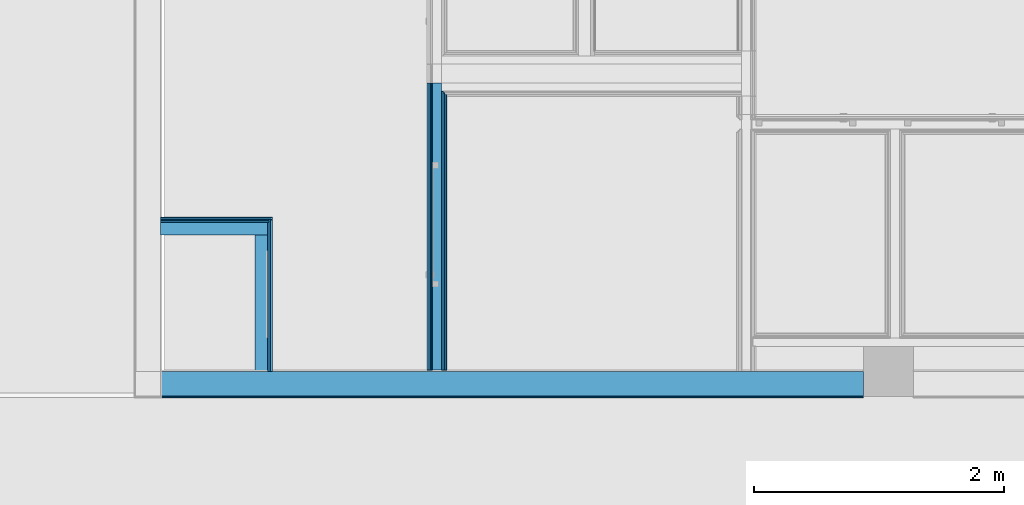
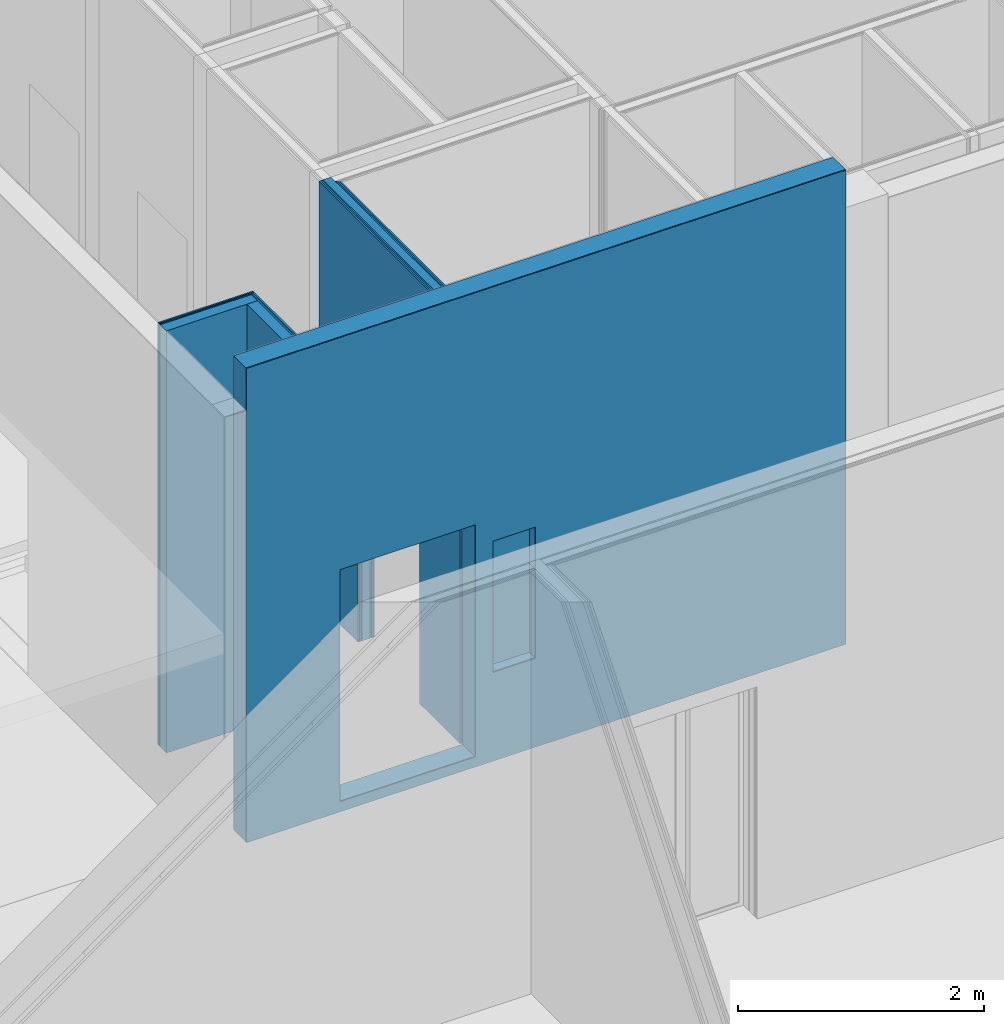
# One storey, part 197 of 260: 17 building element parts, 4 openings, 4 elements without a shape of their own.
"""IFC2X3 building model written with IfcOpenShell, lengths in millimetres."""

from ifc_helpers import new_model, entity, si_unit, converted_unit, derived_unit, money_unit, direction, frame, origin_with_axes, place, context, subcontext, project, spatial, faceted_brep, material, type_object, element, aggregate, save


model = new_model("IFC2X3")

# Units and contexts
model_context = context("Model", 3, precision=0.01, world=origin_with_axes(), true_north=direction((0.0, 1.0)))
body_context = subcontext(model_context, "Body", "Model", "MODEL_VIEW")
ifc_project = project(units=[si_unit("LENGTHUNIT", "METRE", prefix="MILLI"), si_unit("AREAUNIT", "SQUARE_METRE"), si_unit("VOLUMEUNIT", "CUBIC_METRE"), converted_unit("PLANEANGLEUNIT", "DEGREE", entity("IfcPlaneAngleMeasure", 0.0174532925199), si_unit("PLANEANGLEUNIT", "RADIAN"), dimensions=[0, 0, 0, 0, 0, 0, 0]), money_unit("EUR"), converted_unit("TIMEUNIT", "Year", entity("IfcTimeMeasure", 31556926.0), si_unit("TIMEUNIT", "SECOND"), dimensions=[0, 0, 1, 0, 0, 0, 0]), si_unit("MASSUNIT", "GRAM", prefix="KILO"), si_unit("THERMODYNAMICTEMPERATUREUNIT", "DEGREE_CELSIUS"), si_unit("LUMINOUSINTENSITYUNIT", "LUMEN"), si_unit("ENERGYUNIT", "JOULE", prefix="MEGA"), derived_unit("THERMALCONDUCTANCEUNIT", [(si_unit("POWERUNIT", "WATT"), 1), (si_unit("LENGTHUNIT", "METRE"), -1), (si_unit("THERMODYNAMICTEMPERATUREUNIT", "KELVIN"), -1)]), derived_unit("SPECIFICHEATCAPACITYUNIT", [(si_unit("ENERGYUNIT", "JOULE"), 1), (si_unit("MASSUNIT", "GRAM", prefix="KILO"), -1), (si_unit("THERMODYNAMICTEMPERATUREUNIT", "KELVIN"), -1)]), derived_unit("MASSDENSITYUNIT", [(si_unit("MASSUNIT", "GRAM", prefix="KILO"), 1), (si_unit("VOLUMEUNIT", "CUBIC_METRE"), -1)])], contexts=[model_context])

# Site, building, storey
site_placement = place(None, origin_with_axes())
site = spatial("IfcSite", under=ifc_project, at=site_placement, Name="Kolde pst 67a", CompositionType="ELEMENT")
building_placement = place(site_placement, origin_with_axes())
building = spatial("IfcBuilding", under=site, at=building_placement, Name="Riigigümnaasium", CompositionType="ELEMENT")
storey_placement = place(building_placement, origin_with_axes())
storey = spatial("IfcBuildingStorey", under=building, at=storey_placement, Name="1. korrus", CompositionType="ELEMENT", Elevation=0.0)

# Wall, openings, building element parts
wall_type_1 = type_object("IfcWallType", Name="SS-RB-20/1_+2 krohv 55 dB 220", PredefinedType="NOTDEFINED")
wall_1_placement = place(storey_placement, frame((64129.9442044, 10899.9619405, -100.100001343), z_axis=(0.0, 0.0, 1.0), x_axis=(1.0, 0.0, 0.0)))
wall_1 = element("IfcWall", 1, at=wall_1_placement, inside=storey, type_object=wall_type_1, Name="Sisesein")
opening_1_placement = place(wall_1_placement, frame((1512.33413721, 0.0, 100.100001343), z_axis=(0.0, 0.0, 1.0), x_axis=(1.0, 0.0, 0.0)))
element("IfcOpeningElement", 2, at=opening_1_placement, cuts=wall_1, Name="Ukseava", context=body_context, shape_type="Brep", body=[
    faceted_brep([(-633.609193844, -220.0, 0.0), (-633.609193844, -220.0, 2300.0), (-633.609193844, 440.0, 2300.0), (-633.609193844, 440.0, 0.0), (633.609193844, -220.0, 0.0), (633.609193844, -220.0, 2300.0), (633.609193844, 440.0, 2300.0), (633.609193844, 440.0, 0.0)], [[[0, 1, 2, 3]], [[0, 4, 5, 1]], [[1, 5, 6, 2]], [[3, 2, 6, 7]], [[4, 0, 3, 7]], [[5, 4, 7, 6]]]),
])
opening_2_placement = place(wall_1_placement, frame((-64129.9442044, -10899.9619405, 100.100001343), z_axis=(0.0, 0.0, 1.0), x_axis=(1.0, 0.0, 0.0)))
element("IfcOpeningElement", 3, at=opening_2_placement, cuts=wall_1, Name="Tulekustuti nišš vastavalt SA osale", ObjectType="OPENING", context=body_context, shape_type="Brep", body=[
    faceted_brep([(66439.9488956, 10689.9619405, 780.0), (66439.9488956, 10689.9619405, 2080.0), (66439.9488956, 10789.9619405, 2080.0), (66439.9488956, 10789.9619405, 780.0), (66839.9488956, 10689.9619405, 780.0), (66839.9488956, 10689.9619405, 2080.0), (66839.9488956, 10789.9619405, 2080.0), (66839.9488956, 10789.9619405, 780.0)], [[[0, 1, 2, 3]], [[0, 4, 5, 1]], [[1, 5, 6, 2]], [[3, 2, 6, 7]], [[4, 0, 3, 7]], [[5, 4, 7, 6]]]),
])
ifc_material_1 = material(Name="_KANDETARIND - monteeritav raudbetoon vastavalt EK osale")
building_element_part_1_placement = place(wall_1_placement, origin_with_axes())
building_element_part_1 = element("IfcBuildingElementPart", 4, at=building_element_part_1_placement, material=ifc_material_1, Name="_KANDETARIND - monteeritav raudbetoon vastavalt EK osale", context=body_context, shape_type="Brep", body=[
    faceted_brep([(0.0, -200.0, 0.0), (5620.05512171, -200.0, 0.0), (5620.05512171, -200.0, 4700.10000134), (0.0, -200.0, 4700.10000134), (2310.00469115, -200.0, 880.100001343), (2310.00469115, -200.0, 2180.10000134), (2710.00469115, -200.0, 2180.10000134), (2710.00469115, -200.0, 880.100001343), (2145.94333105, -200.0, 100.100001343), (878.724943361, -200.0, 100.100001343), (878.724943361, -200.0, 2400.10000134), (2145.94333105, -200.0, 2400.10000134), (0.0, 0.0, 0.0), (5620.05512171, 0.0, 0.0), (5620.05512171, 0.0, 4700.10000134), (0.0, 0.0, 4700.10000134), (2310.00469115, -110.0, 880.100001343), (2310.00469115, -110.0, 2180.10000134), (2710.00469115, -110.0, 2180.10000134), (2710.00469115, -110.0, 880.100001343), (2145.94333105, 0.0, 100.100001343), (878.724943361, 0.0, 100.100001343), (878.724943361, 0.0, 2400.10000134), (2145.94333105, 0.0, 2400.10000134)], [[[0, 1, 2, 3], [4, 5, 6, 7], [8, 9, 10, 11]], [[12, 13, 1, 0]], [[14, 2, 1, 13]], [[3, 2, 14, 15]], [[0, 3, 15, 12]], [[5, 4, 16, 17]], [[6, 5, 17, 18]], [[7, 6, 18, 19]], [[4, 7, 19, 16]], [[8, 20, 21, 9]], [[9, 21, 22, 10]], [[10, 22, 23, 11]], [[11, 23, 20, 8]], [[15, 14, 13, 12], [22, 21, 20, 23]], [[19, 18, 17, 16]]]),
])
ifc_material_2 = material(Name="_VIIMISTLUSKIHT - viimistlus vastavalt SA osale")
building_element_part_2_placement = place(wall_1_placement, origin_with_axes())
building_element_part_2 = element("IfcBuildingElementPart", 5, at=building_element_part_2_placement, material=ifc_material_2, Name="_VIIMISTLUSKIHT - viimistlus vastavalt SA osale", context=body_context, shape_type="Brep", body=[
    faceted_brep([(0.0, -210.0, 0.0), (5620.05512171, -210.0, 0.0), (5620.05512171, -210.0, 4700.10000134), (0.0, -210.0, 4700.10000134), (2310.00469115, -210.0, 880.100001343), (2310.00469115, -210.0, 2180.10000134), (2710.00469115, -210.0, 2180.10000134), (2710.00469115, -210.0, 880.100001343), (2145.94333105, -210.0, 100.100001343), (878.724943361, -210.0, 100.100001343), (878.724943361, -210.0, 2400.10000134), (2145.94333105, -210.0, 2400.10000134), (0.0, -200.0, 0.0), (5620.05512171, -200.0, 0.0), (5620.05512171, -200.0, 4700.10000134), (0.0, -200.0, 4700.10000134), (2310.00469115, -200.0, 880.100001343), (2310.00469115, -200.0, 2180.10000134), (2710.00469115, -200.0, 2180.10000134), (2710.00469115, -200.0, 880.100001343), (2145.94333105, -200.0, 100.100001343), (878.724943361, -200.0, 100.100001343), (878.724943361, -200.0, 2400.10000134), (2145.94333105, -200.0, 2400.10000134)], [[[0, 1, 2, 3], [4, 5, 6, 7], [8, 9, 10, 11]], [[12, 13, 1, 0]], [[14, 2, 1, 13]], [[3, 2, 14, 15]], [[0, 3, 15, 12]], [[16, 17, 5, 4]], [[17, 18, 6, 5]], [[18, 19, 7, 6]], [[19, 16, 4, 7]], [[8, 20, 21, 9]], [[9, 21, 22, 10]], [[10, 22, 23, 11]], [[11, 23, 20, 8]], [[15, 14, 13, 12], [16, 19, 18, 17], [22, 21, 20, 23]]]),
])
aggregate(wall_1, [building_element_part_1, building_element_part_2])

# Wall, opening, building element parts
wall_type_2 = type_object("IfcWallType", Name="SS-MK-7,5/1_plaaditud 155", PredefinedType="NOTDEFINED")
wall_2_placement = place(storey_placement, frame((66260.8875355, 10909.9619407, 0.0), z_axis=(0.0, 0.0, 1.0), x_axis=(0.0, 1.0, 0.0)))
wall_2 = element("IfcWall", 6, at=wall_2_placement, inside=storey, type_object=wall_type_2, Name="Sisesein")
opening_3_placement = place(wall_2_placement, frame((1162.38909795, 0.0, 0.0), z_axis=(0.0, 0.0, 1.0), x_axis=(1.0, 0.0, 0.0)))
element("IfcOpeningElement", 7, at=opening_3_placement, cuts=wall_2, Name="Siseuks", context=body_context, shape_type="Brep", body=[
    faceted_brep([(500.0, -155.0, 2300.0), (500.0, -155.0, 0.0), (500.0, 310.0, 0.0), (500.0, 310.0, 2300.0), (-500.0, -155.0, 2300.0), (-500.0, -155.0, 0.0), (-500.0, 310.0, 0.0), (-500.0, 310.0, 2300.0)], [[[0, 1, 2, 3]], [[0, 4, 5, 1]], [[1, 5, 6, 2]], [[3, 2, 6, 7]], [[4, 0, 3, 7]], [[5, 4, 7, 6]]]),
])
building_element_part_3_placement = place(wall_2_placement, origin_with_axes())
building_element_part_3 = element("IfcBuildingElementPart", 8, at=building_element_part_3_placement, material=ifc_material_2, Name="_VIIMISTLUSKIHT - viimistlus vastavalt SA osale", context=body_context, shape_type="Brep", body=[
    faceted_brep([(662.389097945, -15.0, 0.0), (662.389097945, -15.0, 2300.0), (1662.38909795, -15.0, 2300.0), (1662.38909795, -15.0, 0.0), (2296.03944438, -15.0, 0.0), (2296.03944438, -15.0, 4185.0), (0.0, -15.0, 4185.0), (0.0, -15.0, 0.0), (662.389097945, 0.0, 0.0), (662.389097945, 0.0, 2300.0), (1662.38909795, 0.0, 2300.0), (1662.38909795, 0.0, 0.0), (2296.03944438, 0.0, 0.0), (2296.03944438, 0.0, 4185.0), (0.0, 0.0, 4185.0), (0.0, 0.0, 0.0)], [[[0, 1, 2, 3, 4, 5, 6, 7]], [[1, 0, 8, 9]], [[2, 1, 9, 10]], [[3, 2, 10, 11]], [[3, 11, 12, 4]], [[5, 4, 12, 13]], [[5, 13, 14, 6]], [[14, 15, 7, 6]], [[8, 0, 7, 15]], [[9, 8, 15, 14, 13, 12, 11, 10]]]),
])
ifc_material_3 = material(Name="_PLAATMATERJAL - kipsplaat veekindel")
building_element_part_4_placement = place(wall_2_placement, origin_with_axes())
building_element_part_4 = element("IfcBuildingElementPart", 9, at=building_element_part_4_placement, material=ifc_material_3, Name="_PLAATMATERJAL - kipsplaat veekindel", context=body_context, shape_type="Brep", body=[
    faceted_brep([(662.389097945, -27.5, 0.0), (662.389097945, -27.5, 2300.0), (1662.38909795, -27.5, 2300.0), (1662.38909795, -27.5, 0.0), (2296.03944438, -27.5, 0.0), (2296.03944438, -27.5, 4185.0), (0.0, -27.5, 4185.0), (0.0, -27.5, 0.0), (662.389097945, -15.0, 0.0), (662.389097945, -15.0, 2300.0), (1662.38909795, -15.0, 2300.0), (1662.38909795, -15.0, 0.0), (2296.03944438, -15.0, 0.0), (2296.03944438, -15.0, 4185.0), (0.0, -15.0, 4185.0), (0.0, -15.0, 0.0)], [[[0, 1, 2, 3, 4, 5, 6, 7]], [[1, 0, 8, 9]], [[2, 1, 9, 10]], [[3, 2, 10, 11]], [[3, 11, 12, 4]], [[5, 4, 12, 13]], [[5, 13, 14, 6]], [[14, 15, 7, 6]], [[8, 0, 7, 15]], [[9, 8, 15, 14, 13, 12, 11, 10]]]),
])
building_element_part_5_placement = place(wall_2_placement, origin_with_axes())
building_element_part_5 = element("IfcBuildingElementPart", 10, at=building_element_part_5_placement, material=ifc_material_3, Name="_PLAATMATERJAL - kipsplaat veekindel", context=body_context, shape_type="Brep", body=[
    faceted_brep([(662.389097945, -40.0, 0.0), (662.389097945, -40.0, 2300.0), (1662.38909795, -40.0, 2300.0), (1662.38909795, -40.0, 0.0), (2296.03944438, -40.0, 0.0), (2296.03944438, -40.0, 4185.0), (0.0, -40.0, 4185.0), (0.0, -40.0, 0.0), (662.389097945, -27.5, 0.0), (662.389097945, -27.5, 2300.0), (1662.38909795, -27.5, 2300.0), (1662.38909795, -27.5, 0.0), (2296.03944438, -27.5, 0.0), (2296.03944438, -27.5, 4185.0), (0.0, -27.5, 4185.0), (0.0, -27.5, 0.0)], [[[0, 1, 2, 3, 4, 5, 6, 7]], [[1, 0, 8, 9]], [[2, 1, 9, 10]], [[3, 2, 10, 11]], [[3, 11, 12, 4]], [[5, 4, 12, 13]], [[5, 13, 14, 6]], [[14, 15, 7, 6]], [[8, 0, 7, 15]], [[9, 8, 15, 14, 13, 12, 11, 10]]]),
])
ifc_material_4 = material(Name="_KARKASS - metallkarkass CW 75/50, mineraalvill karkassi vahel")
building_element_part_6_placement = place(wall_2_placement, origin_with_axes())
building_element_part_6 = element("IfcBuildingElementPart", 11, at=building_element_part_6_placement, material=ifc_material_4, Name="_KARKASS - metallkarkass CW 75/50, mineraalvill karkassi vahel", context=body_context, shape_type="Brep", body=[
    faceted_brep([(662.389097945, -115.0, 0.0), (662.389097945, -115.0, 2300.0), (1662.38909795, -115.0, 2300.0), (1662.38909795, -115.0, 0.0), (2296.03944438, -115.0, 0.0), (2296.03944438, -115.0, 4185.0), (0.0, -115.0, 4185.0), (0.0, -115.0, 0.0), (662.389097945, -40.0, 0.0), (662.389097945, -40.0, 2300.0), (1662.38909795, -40.0, 2300.0), (1662.38909795, -40.0, 0.0), (2296.03944438, -40.0, 0.0), (2296.03944438, -40.0, 4185.0), (0.0, -40.0, 4185.0), (0.0, -40.0, 0.0)], [[[0, 1, 2, 3, 4, 5, 6, 7]], [[1, 0, 8, 9]], [[2, 1, 9, 10]], [[3, 2, 10, 11]], [[3, 11, 12, 4]], [[5, 4, 12, 13]], [[5, 13, 14, 6]], [[14, 15, 7, 6]], [[8, 0, 7, 15]], [[9, 8, 15, 14, 13, 12, 11, 10]]]),
])
building_element_part_7_placement = place(wall_2_placement, origin_with_axes())
building_element_part_7 = element("IfcBuildingElementPart", 12, at=building_element_part_7_placement, material=ifc_material_3, Name="_PLAATMATERJAL - kipsplaat veekindel", context=body_context, shape_type="Brep", body=[
    faceted_brep([(662.389097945, -127.5, 0.0), (662.389097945, -127.5, 2300.0), (1662.38909795, -127.5, 2300.0), (1662.38909795, -127.5, 0.0), (2230.03943694, -127.5, 0.0), (2230.03943694, -127.5, 4185.0), (0.0, -127.5, 4185.0), (0.0, -127.5, 0.0), (662.389097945, -115.0, 0.0), (662.389097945, -115.0, 2300.0), (1662.38909795, -115.0, 2300.0), (1662.38909795, -115.0, 0.0), (2230.03944438, -115.0, 0.0), (2230.03944438, -115.0, 4185.0), (0.0, -115.0, 4185.0), (0.0, -115.0, 0.0)], [[[0, 1, 2, 3, 4, 5, 6, 7]], [[1, 0, 8, 9]], [[2, 1, 9, 10]], [[3, 2, 10, 11]], [[3, 11, 12, 4]], [[5, 4, 12, 13]], [[5, 13, 14, 6]], [[14, 15, 7, 6]], [[8, 0, 7, 15]], [[9, 8, 15, 14, 13, 12, 11, 10]]]),
])
building_element_part_8_placement = place(wall_2_placement, origin_with_axes())
building_element_part_8 = element("IfcBuildingElementPart", 13, at=building_element_part_8_placement, material=ifc_material_3, Name="_PLAATMATERJAL - kipsplaat veekindel", context=body_context, shape_type="Brep", body=[
    faceted_brep([(662.389097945, -140.0, 0.0), (662.389097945, -140.0, 2300.0), (1662.38909795, -140.0, 2300.0), (1662.38909795, -140.0, 0.0), (2217.5394295, -140.0, 0.0), (2217.5394295, -140.0, 4185.0), (0.0, -140.0, 4185.0), (0.0, -140.0, 0.0), (662.389097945, -127.5, 0.0), (662.389097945, -127.5, 2300.0), (1662.38909795, -127.5, 2300.0), (1662.38909795, -127.5, 0.0), (2217.53943694, -127.5, 0.0), (2217.53943694, -127.5, 4185.0), (0.0, -127.5, 4185.0), (0.0, -127.5, 0.0)], [[[0, 1, 2, 3, 4, 5, 6, 7]], [[1, 0, 8, 9]], [[2, 1, 9, 10]], [[3, 2, 10, 11]], [[3, 11, 12, 4]], [[5, 4, 12, 13]], [[5, 13, 14, 6]], [[14, 15, 7, 6]], [[8, 0, 7, 15]], [[9, 8, 15, 14, 13, 12, 11, 10]]]),
])
building_element_part_9_placement = place(wall_2_placement, origin_with_axes())
building_element_part_9 = element("IfcBuildingElementPart", 14, at=building_element_part_9_placement, material=ifc_material_2, Name="_VIIMISTLUSKIHT - viimistlus vastavalt SA osale", context=body_context, shape_type="Brep", body=[
    faceted_brep([(662.389097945, -155.0, 0.0), (662.389097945, -155.0, 2300.0), (1662.38909795, -155.0, 2300.0), (1662.38909795, -155.0, 0.0), (2205.03942058, -155.0, 0.0), (2205.03942058, -155.0, 4185.0), (0.0, -155.0, 4185.0), (0.0, -155.0, 0.0), (662.389097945, -140.0, 0.0), (662.389097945, -140.0, 2300.0), (1662.38909795, -140.0, 2300.0), (1662.38909795, -140.0, 0.0), (2205.0394295, -140.0, 0.0), (2205.0394295, -140.0, 4185.0), (0.0, -140.0, 4185.0), (0.0, -140.0, 0.0)], [[[0, 1, 2, 3, 4, 5, 6, 7]], [[1, 0, 8, 9]], [[2, 1, 9, 10]], [[3, 2, 10, 11]], [[3, 11, 12, 4]], [[5, 4, 12, 13]], [[5, 13, 14, 6]], [[14, 15, 7, 6]], [[8, 0, 7, 15]], [[9, 8, 15, 14, 13, 12, 11, 10]]]),
])
aggregate(wall_2, [building_element_part_3, building_element_part_4, building_element_part_5, building_element_part_6, building_element_part_7, building_element_part_8, building_element_part_9])

# Wall, building element parts
wall_type_3 = type_object("IfcWallType", Name="SS-MK-10/2_šahti sein+plaat 140", PredefinedType="NOTDEFINED")
wall_3_placement = place(storey_placement, frame((64129.2561363, 12129.9887321, 0.0), z_axis=(0.0, 0.0, 1.0), x_axis=(0.999999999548, -3.00795503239e-05, 0.0)))
wall_3 = element("IfcWall", 15, at=wall_3_placement, inside=storey, type_object=wall_type_3, Name="Sisesein")
building_element_part_10_placement = place(wall_3_placement, origin_with_axes())
building_element_part_10 = element("IfcBuildingElementPart", 16, at=building_element_part_10_placement, material=ifc_material_2, Name="_VIIMISTLUSKIHT - viimistlus vastavalt SA osale", context=body_context, shape_type="Brep", body=[
    faceted_brep([(0.0, 0.0, 4185.0), (894.413011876, 0.0, 4185.0), (894.413011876, 0.0, 0.0), (0.0, 0.0, 0.0), (894.413463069, -15.0, 4185.0), (0.0, -15.0, 4185.0), (894.413463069, -15.0, 0.0), (0.0, -15.0, 0.0)], [[[0, 1, 2, 3]], [[4, 1, 0, 5]], [[1, 4, 6, 2]], [[2, 6, 7, 3]], [[5, 0, 3, 7]], [[4, 5, 7, 6]]]),
])
building_element_part_11_placement = place(wall_3_placement, origin_with_axes())
building_element_part_11 = element("IfcBuildingElementPart", 17, at=building_element_part_11_placement, material=ifc_material_3, Name="_PLAATMATERJAL - kipsplaat veekindel", context=body_context, shape_type="Brep", body=[
    faceted_brep([(0.0, -15.0, 4185.0), (879.413463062, -15.0, 4185.0), (879.413463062, -15.0, 0.0), (0.0, -15.0, 0.0), (879.413839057, -27.5, 4185.0), (0.0, -27.5, 4185.0), (879.413839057, -27.5, 0.0), (0.0, -27.5, 0.0)], [[[0, 1, 2, 3]], [[4, 1, 0, 5]], [[1, 4, 6, 2]], [[2, 6, 7, 3]], [[5, 0, 3, 7]], [[4, 5, 7, 6]]]),
])
building_element_part_12_placement = place(wall_3_placement, origin_with_axes())
building_element_part_12 = element("IfcBuildingElementPart", 18, at=building_element_part_12_placement, material=ifc_material_3, Name="_PLAATMATERJAL - kipsplaat veekindel", context=body_context, shape_type="Brep", body=[
    faceted_brep([(0.0, -27.5, 4185.0), (866.913839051, -27.5, 4185.0), (866.913839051, -27.5, 0.0), (0.0, -27.5, 0.0), (866.914215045, -40.0, 4185.0), (0.0, -40.0, 4185.0), (866.914215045, -40.0, 0.0), (0.0, -40.0, 0.0)], [[[0, 1, 2, 3]], [[4, 1, 0, 5]], [[1, 4, 6, 2]], [[2, 6, 7, 3]], [[5, 0, 3, 7]], [[4, 5, 7, 6]]]),
])
ifc_material_5 = material(Name="_KARKASS - metallkarkass CW 100/50/06 ja UW 100/40/06, samm 600, vahel mineraalvill, helineeldetegur αw = 1.0,  ISOVER ACOUSTIC 100mm või samaväärne")
building_element_part_13_placement = place(wall_3_placement, origin_with_axes())
building_element_part_13 = element("IfcBuildingElementPart", 19, at=building_element_part_13_placement, material=ifc_material_5, Name="_KARKASS - metallkarkass CW 100/50/06 ja UW 100/40/06, samm 600, vahel mineraalvill, helineeldetegur αw = 1.0,  ISOVER ACOUSTIC 100mm või samaväärne", context=body_context, shape_type="Brep", body=[
    faceted_brep([(0.0, -40.0, 4185.0), (854.41421504, -40.0, 4185.0), (854.41421504, -40.0, 0.0), (0.0, -40.0, 0.0), (854.417222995, -140.0, 4185.0), (0.0, -140.0, 4185.0), (854.417222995, -140.0, 0.0), (0.0, -140.0, 0.0)], [[[0, 1, 2, 3]], [[4, 1, 0, 5]], [[1, 4, 6, 2]], [[2, 6, 7, 3]], [[5, 0, 3, 7]], [[4, 5, 7, 6]]]),
])
aggregate(wall_3, [building_element_part_10, building_element_part_11, building_element_part_12, building_element_part_13])

# Wall, opening, building element parts
wall_4_placement = place(storey_placement, frame((65023.6691478, 12129.9618286, 0.0), z_axis=(0.0, 0.0, 1.0), x_axis=(0.0, -1.0, 0.0)))
wall_4 = element("IfcWall", 20, at=wall_4_placement, inside=storey, type_object=wall_type_3, Name="Sisesein")
opening_4_placement = place(wall_4_placement, frame((615.000180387, 0.0, 100.0), z_axis=(0.0, 0.0, 1.0), x_axis=(1.0, 0.0, 0.0)))
element("IfcOpeningElement", 21, at=opening_4_placement, cuts=wall_4, Name="Hooldusluuk vastavalt SA osale", context=body_context, shape_type="Brep", body=[
    faceted_brep([(350.0, -140.0, 700.0), (350.0, -140.0, 0.0), (350.0, 280.0, 0.0), (350.0, 280.0, 700.0), (-350.0, -140.0, 700.0), (-350.0, -140.0, 0.0), (-350.0, 280.0, 0.0), (-350.0, 280.0, 700.0)], [[[0, 1, 2, 3]], [[0, 4, 5, 1]], [[1, 5, 6, 2]], [[3, 2, 6, 7]], [[4, 0, 3, 7]], [[5, 4, 7, 6]]]),
])
building_element_part_14_placement = place(wall_4_placement, origin_with_axes())
building_element_part_14 = element("IfcBuildingElementPart", 22, at=building_element_part_14_placement, material=ifc_material_2, Name="_VIIMISTLUSKIHT - viimistlus vastavalt SA osale", context=body_context, shape_type="Brep", body=[
    faceted_brep([(14.9995488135, -15.0, 4185.0), (14.9995488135, -15.0, 0.0), (1230.00036077, -15.0, 0.0), (1230.00036077, -15.0, 4185.0), (965.000180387, -15.0, 100.0), (265.000180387, -15.0, 100.0), (265.000180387, -15.0, 800.0), (965.000180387, -15.0, 800.0), (15.0000000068, 0.0, 4185.0), (15.0000000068, 0.0, 0.0), (1230.00036077, 0.0, 0.0), (1230.00036077, 0.0, 4185.0), (965.000180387, 0.0, 100.0), (265.000180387, 0.0, 100.0), (265.000180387, 0.0, 800.0), (965.000180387, 0.0, 800.0)], [[[0, 1, 2, 3], [4, 5, 6, 7]], [[8, 9, 1, 0]], [[10, 2, 1, 9]], [[3, 2, 10, 11]], [[8, 0, 3, 11]], [[12, 13, 5, 4]], [[13, 14, 6, 5]], [[14, 15, 7, 6]], [[15, 12, 4, 7]], [[11, 10, 9, 8], [12, 15, 14, 13]]]),
])
building_element_part_15_placement = place(wall_4_placement, origin_with_axes())
building_element_part_15 = element("IfcBuildingElementPart", 23, at=building_element_part_15_placement, material=ifc_material_3, Name="_PLAATMATERJAL - kipsplaat veekindel", context=body_context, shape_type="Brep", body=[
    faceted_brep([(27.4991728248, -27.5, 4185.0), (27.4991728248, -27.5, 0.0), (1230.00036077, -27.5, 0.0), (1230.00036077, -27.5, 4185.0), (965.000180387, -27.5, 100.0), (265.000180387, -27.5, 100.0), (265.000180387, -27.5, 800.0), (965.000180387, -27.5, 800.0), (27.4995488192, -15.0, 4185.0), (27.4995488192, -15.0, 0.0), (1230.00036077, -15.0, 0.0), (1230.00036077, -15.0, 4185.0), (965.000180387, -15.0, 100.0), (265.000180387, -15.0, 100.0), (265.000180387, -15.0, 800.0), (965.000180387, -15.0, 800.0)], [[[0, 1, 2, 3], [4, 5, 6, 7]], [[8, 9, 1, 0]], [[10, 2, 1, 9]], [[3, 2, 10, 11]], [[8, 0, 3, 11]], [[12, 13, 5, 4]], [[13, 14, 6, 5]], [[14, 15, 7, 6]], [[15, 12, 4, 7]], [[11, 10, 9, 8], [12, 15, 14, 13]]]),
])
building_element_part_16_placement = place(wall_4_placement, origin_with_axes())
building_element_part_16 = element("IfcBuildingElementPart", 24, at=building_element_part_16_placement, material=ifc_material_3, Name="_PLAATMATERJAL - kipsplaat veekindel", context=body_context, shape_type="Brep", body=[
    faceted_brep([(39.9987968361, -40.0, 4185.0), (39.9987968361, -40.0, 0.0), (1230.00036077, -40.0, 0.0), (1230.00036077, -40.0, 4185.0), (965.000180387, -40.0, 100.0), (265.000180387, -40.0, 100.0), (265.000180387, -40.0, 800.0), (965.000180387, -40.0, 800.0), (39.9991728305, -27.5, 4185.0), (39.9991728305, -27.5, 0.0), (1230.00036077, -27.5, 0.0), (1230.00036077, -27.5, 4185.0), (965.000180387, -27.5, 100.0), (265.000180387, -27.5, 100.0), (265.000180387, -27.5, 800.0), (965.000180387, -27.5, 800.0)], [[[0, 1, 2, 3], [4, 5, 6, 7]], [[8, 9, 1, 0]], [[10, 2, 1, 9]], [[3, 2, 10, 11]], [[8, 0, 3, 11]], [[12, 13, 5, 4]], [[13, 14, 6, 5]], [[14, 15, 7, 6]], [[15, 12, 4, 7]], [[11, 10, 9, 8], [12, 15, 14, 13]]]),
])
building_element_part_17_placement = place(wall_4_placement, origin_with_axes())
building_element_part_17 = element("IfcBuildingElementPart", 25, at=building_element_part_17_placement, material=ifc_material_5, Name="_KARKASS - metallkarkass CW 100/50/06 ja UW 100/40/06, samm 600, vahel mineraalvill, helineeldetegur αw = 1.0,  ISOVER ACOUSTIC 100mm või samaväärne", context=body_context, shape_type="Brep", body=[
    faceted_brep([(139.995788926, -140.0, 4185.0), (139.995788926, -140.0, 0.0), (1230.00036077, -140.0, 0.0), (1230.00036077, -140.0, 4185.0), (965.000180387, -140.0, 100.0), (265.000180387, -140.0, 100.0), (265.000180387, -140.0, 800.0), (965.000180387, -140.0, 800.0), (139.998796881, -40.0, 4185.0), (139.998796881, -40.0, 0.0), (1230.00036077, -40.0, 0.0), (1230.00036077, -40.0, 4185.0), (965.000180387, -40.0, 100.0), (265.000180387, -40.0, 100.0), (265.000180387, -40.0, 800.0), (965.000180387, -40.0, 800.0)], [[[0, 1, 2, 3], [4, 5, 6, 7]], [[8, 9, 1, 0]], [[10, 2, 1, 9]], [[3, 2, 10, 11]], [[8, 0, 3, 11]], [[12, 13, 5, 4]], [[13, 14, 6, 5]], [[14, 15, 7, 6]], [[15, 12, 4, 7]], [[11, 10, 9, 8], [12, 15, 14, 13]]]),
])
aggregate(wall_4, [building_element_part_14, building_element_part_15, building_element_part_16, building_element_part_17])

save(model, "model.ifc")
